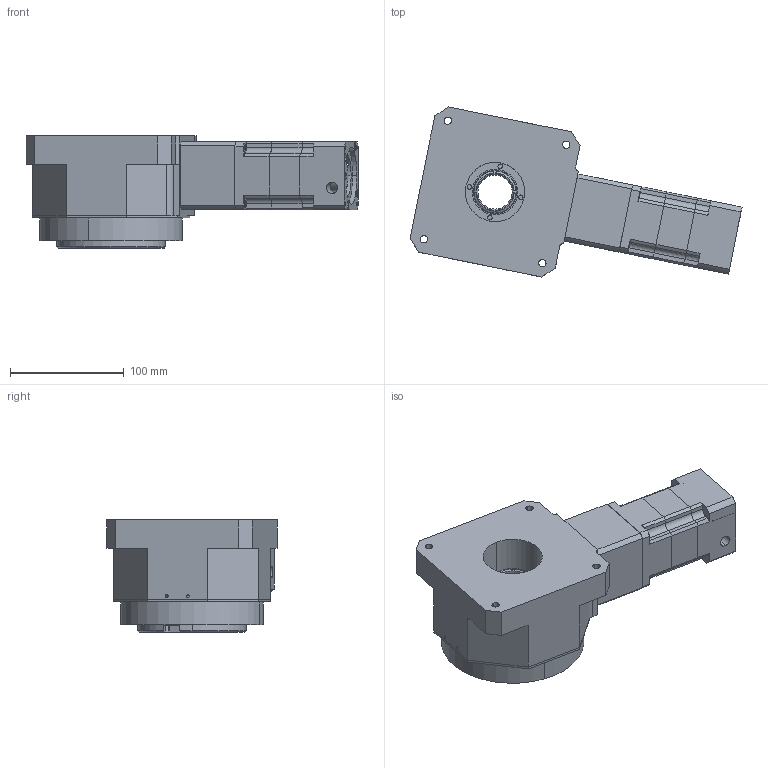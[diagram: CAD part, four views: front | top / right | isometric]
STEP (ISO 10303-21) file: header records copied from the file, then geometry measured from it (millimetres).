
FILE_DESCRIPTION (( 'STEP AP203' ), '1' );
FILE_NAME ('HTM130-L2-14-50-70.STEP', '2024-07-25T09:14:52', ( 'Windows User' ), ( 'P R C' ), 'SwSTEP 2.0', 'SolidWorks 2016', '' );
FILE_SCHEMA (( 'CONFIG_CONTROL_DESIGN' ));
Length unit declared in the file: millimetre
Products named in the file (16): 60-蚐猾; PB60外形图二级齿圈_72T; 60-粣創; 囀鞠褒蹟佪-M5℅16; HTM130-L1-郪蚾璃; PLF60-L2-()-P1-14-50-M4; 60訇喘綴楊擘; HTM130-L2-14-50-70; HTM130-斜齿输入轴; 60-怀堤粣; 60-喘謫; PLF60俋倛芞奻裔啣_72T; 60-͹̨; PLF60俋倛芞狟裔啣; 60-眊极; 邧埴瑩 5x5x20
Assembly tree (15 placements, depth 3):
  HTM130-L2-14-50-70
    HTM130-L1-郪蚾璃
      60-怀堤粣
      60-喘謫
      60-͹̨
      60-眊极
      60-蚐猾
      60-粣創
    60訇喘綴楊擘
    HTM130-斜齿输入轴
    PLF60-L2-()-P1-14-50-M4
      PLF60俋倛芞奻裔啣_72T
      PLF60俋倛芞狟裔啣
      邧埴瑩 5x5x20
      PB60外形图二级齿圈_72T
      囀鞠褒蹟佪-M5℅16
Bounding box: 291.3 x 149.23 x 98.5 mm (x, y, z)
Volume: 1551016.9 mm3; surface area: 311175.6 mm2
Topology: 13 solids, 13 shells, 1334 faces, 3471 edges, 2220 vertices
Faces by surface type: plane 611, cylinder 426, cone 159, bspline 130, torus 8
Entity records: 47775 total; most frequent: CARTESIAN_POINT 13720, ORIENTED_EDGE 6730, DIRECTION 6465, EDGE_CURVE 3365, VERTEX_POINT 2220, AXIS2_PLACEMENT_3D 2183, LINE 2099, VECTOR 2099
